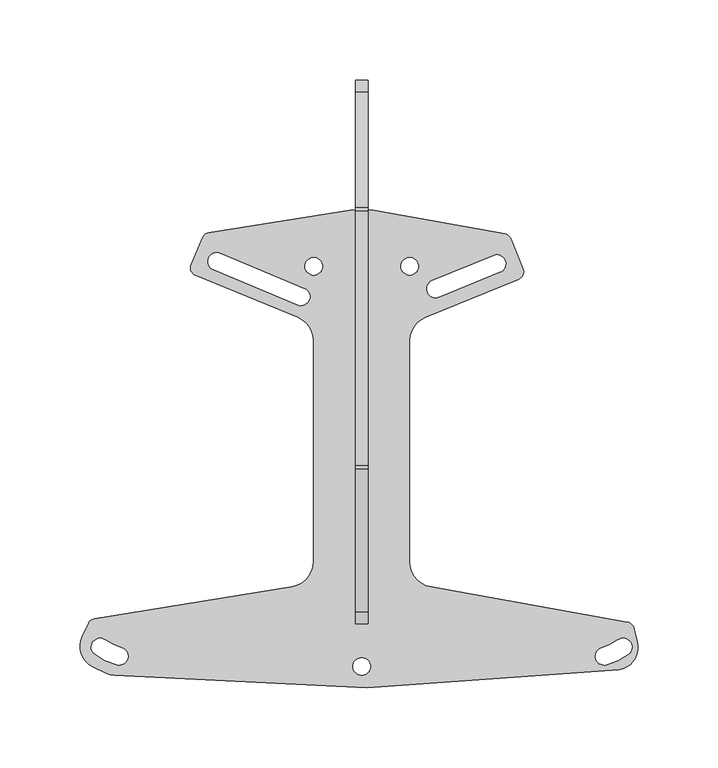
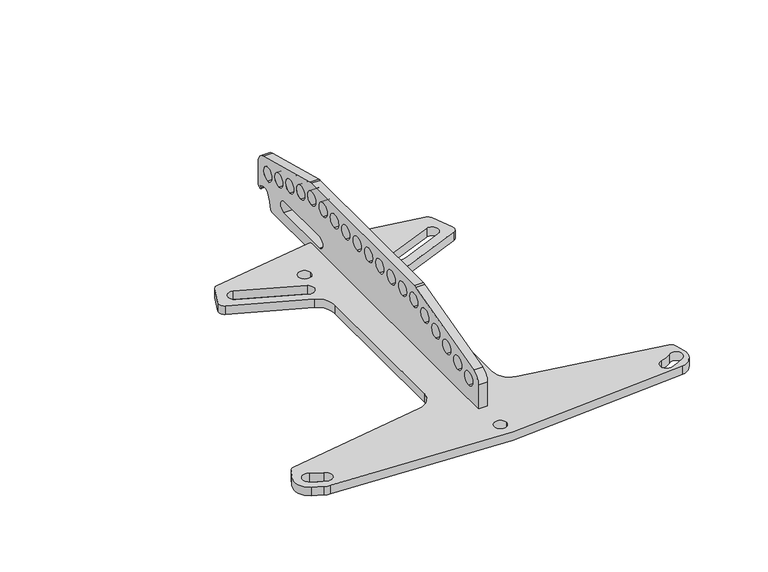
"""IFC4 building model written with IfcOpenShell, lengths in millimetres: proxy geometry, d&b A-Series Flying Adapter : AL Flying Adapter."""

import ifcopenshell
import ifcopenshell.guid

model = None  # the IFC model being written
_history = None  # IfcOwnerHistory: only IFC2X3 demands one
_inside = {}  # id of a spatial element -> (the spatial element, [elements in it])
_under = {}  # id of a project, library or spatial element -> (it, [spatial elements below it])
_declared = {}  # id of a project -> (the project, [libraries it declares])
_typed = {}  # id of a type object -> (the type object, [elements of that type])
_made_of = {}  # id of a material, layer set ... -> (it, [elements and type objects made of it])


def new_model(schema):
    """Start an empty IFC model of exactly this schema.

    Asked for "IFC4X3", IfcOpenShell would pick the latest addendum, in which some entities
    have other attributes; the version numbers below select the first issue.
    IFC2X3 requires an IfcOwnerHistory on every rooted entity: one is made here for all.
    """
    global model, _history
    if schema == "IFC4X3":
        model = ifcopenshell.file(schema_version=(4, 3, 0, 0))
    else:
        model = ifcopenshell.file(schema=schema)
    _inside.clear()
    _under.clear()
    _declared.clear()
    _typed.clear()
    _made_of.clear()
    _history = None
    if model.schema == "IFC2X3":
        org = make("IfcOrganization", Name="unknown")
        user = make(
            "IfcPersonAndOrganization",
            ThePerson=make("IfcPerson", FamilyName="unknown"),
            TheOrganization=org,
        )
        app = make(
            "IfcApplication",
            ApplicationDeveloper=org,
            Version="unknown",
            ApplicationFullName="unknown",
            ApplicationIdentifier="unknown",
        )
        _history = make(
            "IfcOwnerHistory",
            OwningUser=user,
            OwningApplication=app,
            ChangeAction="ADDED",
            CreationDate=0,
        )
    return model


def make(cls, **values):
    """One entity of the class cls with the attributes given. An attribute that is None is left unset."""
    return model.create_entity(
        cls, **{name: value for name, value in values.items() if value is not None}
    )


def rooted(cls, **values):
    """An entity with a GlobalId (a new one), such as an element, a storey or a relation."""
    return make(cls, GlobalId=ifcopenshell.guid.new(), OwnerHistory=_history, **values)


def si_unit(unit_type, name, prefix=None):
    """IfcSIUnit, for example si_unit("LENGTHUNIT", "METRE", prefix="MILLI")."""
    return make("IfcSIUnit", UnitType=unit_type, Prefix=prefix, Name=name)


def assignment(units):
    """IfcUnitAssignment: the units of a project."""
    return None if units is None else make("IfcUnitAssignment", Units=units)


def point(xyz):
    """IfcCartesianPoint."""
    return None if xyz is None else make("IfcCartesianPoint", Coordinates=xyz)


def direction(xyz):
    """IfcDirection."""
    return None if xyz is None else make("IfcDirection", DirectionRatios=xyz)


def frame(location, z_axis=None, x_axis=None):
    """IfcAxis2Placement3D, a coordinate frame: its origin and axes. An axis left out is left unset."""
    return make(
        "IfcAxis2Placement3D",
        Location=point(location),
        Axis=direction(z_axis),
        RefDirection=direction(x_axis),
    )


def frame_2d(location, x_axis=None):
    """IfcAxis2Placement2D, a coordinate frame in the plane: its origin and x axis."""
    return make(
        "IfcAxis2Placement2D", Location=point(location), RefDirection=direction(x_axis)
    )


def origin():
    """The frame at (0, 0, 0) with its axes left unset."""
    return frame((0.0, 0.0, 0.0))


def origin_with_axes():
    """The frame at (0, 0, 0) with the z axis (0, 0, 1) and the x axis (1, 0, 0) written out."""
    return frame((0.0, 0.0, 0.0), z_axis=(0.0, 0.0, 1.0), x_axis=(1.0, 0.0, 0.0))


def place(relative_to, where):
    """IfcLocalPlacement: puts the frame where relative to a parent placement (None: the world)."""
    return make(
        "IfcLocalPlacement", PlacementRelTo=relative_to, RelativePlacement=where
    )


def context(
    kind, dimensions, precision=None, world=None, true_north=None, identifier=None
):
    """IfcGeometricRepresentationContext, for example the 3D "Model" context."""
    return make(
        "IfcGeometricRepresentationContext",
        ContextIdentifier=identifier,
        ContextType=kind,
        CoordinateSpaceDimension=dimensions,
        Precision=precision,
        WorldCoordinateSystem=world,
        TrueNorth=true_north,
    )


def project(units=None, contexts=None):
    """IfcProject with its units and contexts."""
    return rooted(
        "IfcProject",
        Name="project",
        RepresentationContexts=contexts,
        UnitsInContext=assignment(units),
    )


def spatial(cls, under=None, at=None, **own):
    """A site, building, storey or space (cls), placed at a placement, below another one or the project."""
    s = rooted(cls, ObjectPlacement=at, **own)
    if under is not None:
        _under.setdefault(under.id(), (under, []))[1].append(s)
    return s


def polyline(points):
    """IfcPolyline through the points."""
    return make("IfcPolyline", Points=[point(p) for p in points])


def circle_curve(where, radius):
    """IfcCircle in the frame where."""
    return make("IfcCircle", Position=where, Radius=radius)


def trimmed(basis, trim1, trim2, sense, master):
    """IfcTrimmedCurve: the piece of a basis curve between two trims."""
    return make(
        "IfcTrimmedCurve",
        BasisCurve=basis,
        Trim1=trim1,
        Trim2=trim2,
        SenseAgreement=sense,
        MasterRepresentation=master,
    )


def segment(curve, same_sense, transition):
    """IfcCompositeCurveSegment."""
    return make(
        "IfcCompositeCurveSegment",
        Transition=transition,
        SameSense=same_sense,
        ParentCurve=curve,
    )


def composite_curve(segments, self_intersect=None):
    """IfcCompositeCurve: segments joined end to end."""
    return make("IfcCompositeCurve", Segments=segments, SelfIntersect=self_intersect)


def outline(outer, holes=None, kind="AREA"):
    """IfcArbitraryClosedProfileDef: a profile drawn as a closed curve; with holes, ...WithVoids."""
    if holes is None:
        return make("IfcArbitraryClosedProfileDef", ProfileType=kind, OuterCurve=outer)
    return make(
        "IfcArbitraryProfileDefWithVoids",
        ProfileType=kind,
        OuterCurve=outer,
        InnerCurves=holes,
    )


def extrude(swept, where, along, depth):
    """IfcExtrudedAreaSolid: the profile swept, set in the frame where, extruded along a direction by depth."""
    return make(
        "IfcExtrudedAreaSolid",
        SweptArea=swept,
        Position=where,
        ExtrudedDirection=direction(along),
        Depth=depth,
    )


def shape(context_of_items, identifier, shape_type, items):
    """IfcShapeRepresentation: the items that make up one representation, for example the "Body"."""
    return make(
        "IfcShapeRepresentation",
        ContextOfItems=context_of_items,
        RepresentationIdentifier=identifier,
        RepresentationType=shape_type,
        Items=items,
    )


def source(mapping_origin, context_of_items, identifier, shape_type, items):
    """IfcRepresentationMap: a shape defined once, which mapped items show again and again."""
    return make(
        "IfcRepresentationMap",
        MappingOrigin=mapping_origin,
        MappedRepresentation=shape(context_of_items, identifier, shape_type, items),
    )


def transform(
    local_origin,
    x_axis=None,
    y_axis=None,
    z_axis=None,
    scale=None,
    scale2=None,
    scale3=None,
    uniform=True,
):
    """IfcCartesianTransformationOperator3D, or its non-uniform kind. x_axis, y_axis, z_axis: its Axis1, 2, 3."""
    if uniform:
        return make(
            "IfcCartesianTransformationOperator3D",
            Axis1=direction(x_axis),
            Axis2=direction(y_axis),
            LocalOrigin=point(local_origin),
            Scale=scale,
            Axis3=direction(z_axis),
        )
    return make(
        "IfcCartesianTransformationOperator3DnonUniform",
        Axis1=direction(x_axis),
        Axis2=direction(y_axis),
        LocalOrigin=point(local_origin),
        Scale=scale,
        Axis3=direction(z_axis),
        Scale2=scale2,
        Scale3=scale3,
    )


def mapped(mapping_source, mapping_target):
    """IfcMappedItem: shows the shape of a source again, moved by a transform."""
    return make(
        "IfcMappedItem", MappingSource=mapping_source, MappingTarget=mapping_target
    )


def made_of(thing, what):
    """Note that an element or type object is made of a material, layer set ...; save() writes the relation."""
    if what is not None:
        _made_of.setdefault(what.id(), (what, []))[1].append(thing)
    return thing


def element(
    cls,
    number,
    at=None,
    inside=None,
    cuts=None,
    type_object=None,
    material=None,
    context=None,
    identifier="Body",
    shape_type=None,
    held_by="IfcProductDefinitionShape",
    body=None,
    shapes=None,
    **own,
):
    """One element of the class cls, such as IfcWall. Its Tag is "e" and its number.

    at: its placement. inside: the storey or other place that contains it. cuts: it is an
    opening in that element (IfcRelVoidsElement). A single representation is given by context,
    identifier, shape_type and body (its items); several are given by shapes. held_by: the class
    of the entity that holds the representations. save() writes the other relations.
    """
    e = rooted(cls, Tag="e%d" % number, ObjectPlacement=at, **own)
    if body is not None:
        shapes = [shape(context, identifier, shape_type, body)]
    if shapes is not None:
        e.Representation = make(held_by, Representations=shapes)
    if inside is not None:
        _inside.setdefault(inside.id(), (inside, []))[1].append(e)
    if cuts is not None:
        rooted(
            "IfcRelVoidsElement", RelatingBuildingElement=cuts, RelatedOpeningElement=e
        )
    if type_object is not None:
        _typed.setdefault(type_object.id(), (type_object, []))[1].append(e)
    return made_of(e, material)


def aggregate(whole, parts):
    """IfcRelAggregates: a whole, such as a stair, and the parts it consists of."""
    return rooted("IfcRelAggregates", RelatingObject=whole, RelatedObjects=parts)


def save(model, path):
    """Write the relations noted so far, then the file.

    IfcRelAggregates (storeys below a building ...), IfcRelContainedInSpatialStructure (elements
    in a storey), IfcRelDefinesByType, IfcRelAssociatesMaterial and IfcRelDeclares: one each for
    every whole, place, type object, material and project.
    """
    for whole, parts in _under.values():
        aggregate(whole, parts)
    for where, things in _inside.values():
        rooted(
            "IfcRelContainedInSpatialStructure",
            RelatedElements=things,
            RelatingStructure=where,
        )
    for kind, things in _typed.values():
        rooted("IfcRelDefinesByType", RelatedObjects=things, RelatingType=kind)
    for what, things in _made_of.values():
        rooted("IfcRelAssociatesMaterial", RelatedObjects=things, RelatingMaterial=what)
    for by, libraries in _declared.values():
        rooted("IfcRelDeclares", RelatingContext=by, RelatedDefinitions=libraries)
    model.write(path)


def communication_devices_1f0d5030(model_context):
    return source(origin(), model_context, "Body", "SweptSolid", [
        extrude(outline(composite_curve([segment(polyline([(369.541623, 34.8560634), (369.541623, 14.8208781)]), True, "CONTINUOUS"), segment(trimmed(circle_curve(frame_2d((366.541623, 14.8208781)), 3.0), [point((369.541623, 14.8208781))], [point((368.8452025, 12.8990244))], False, "CARTESIAN"), True, "CONTINUOUS"), segment(trimmed(circle_curve(frame_2d((366.0080913, 15.0053592)), 3.5335317), [point((368.8452025, 12.8990244))], [point((366.3345579, 11.4869411))], False, "CARTESIAN"), True, "CONTINUOUS"), segment(trimmed(circle_curve(frame_2d((366.2591994, 12.2991002)), 0.8156478), [point((366.3345579, 11.4869411))], [point((365.5413897, 11.9117625))], False, "CARTESIAN"), True, "CONTINUOUS"), segment(trimmed(circle_curve(frame_2d((366.2179763, 12.2768558)), 0.768806), [point((365.5413897, 11.9117625))], [point((365.7088131, 12.8528901))], False, "CARTESIAN"), True, "CONTINUOUS"), segment(trimmed(circle_curve(frame_2d((365.2958551, 13.7884071)), 1.0226076), [point((365.7088131, 12.8528901))], [point((366.260519, 14.1277447))], True, "CARTESIAN"), True, "CONTINUOUS"), segment(trimmed(circle_curve(frame_2d((363.8030044, 12.5063723)), 2.9441852), [point((366.260519, 14.1277447))], [point((365.437001, 14.9555112))], True, "CARTESIAN"), True, "CONTINUOUS"), segment(trimmed(circle_curve(frame_2d((360.359759, 7.3454155)), 9.1483301), [point((365.437001, 14.9555112))], [point((358.0712732, 16.2028856))], True, "CARTESIAN"), True, "CONTINUOUS"), segment(trimmed(circle_curve(frame_2d((359.4366078, 10.9184262)), 5.4579896), [point((358.0712732, 16.2028856))], [point((355.1413798, 14.2860168))], True, "CARTESIAN"), True, "CONTINUOUS"), segment(trimmed(circle_curve(frame_2d((371.1330992, 1.7480179)), 20.3208392), [point((355.1413798, 14.2860168))], [point((350.9585235, 4.18174))], True, "CARTESIAN"), True, "CONTINUOUS"), segment(trimmed(circle_curve(frame_2d((344.4421815, 4.9678267)), 6.5635848), [point((350.9585235, 4.18174))], [point((349.9143004, 1.3433873))], False, "CARTESIAN"), True, "CONTINUOUS"), segment(trimmed(circle_curve(frame_2d((347.4131738, 3.0)), 3.0), [point((349.9143004, 1.3433873))], [point((347.4131738, 0.0))], False, "CARTESIAN"), True, "CONTINUOUS"), segment(polyline([(347.4131738, 0.0), (288.1440001, 0.0), (288.1440001, 8.0694387), (29.9083054, 8.0694387), (29.9083054, 30.3267301)]), True, "CONTINUOUS"), segment(trimmed(circle_curve(frame_2d((39.9083054, 30.3267301)), 10.0), [point((29.9083054, 30.3267301))], [point((37.3201149, 39.9859884))], False, "CARTESIAN"), True, "CONTINUOUS"), segment(polyline([(37.3201149, 39.9859884), (126.3120147, 63.8312961)]), True, "CONTINUOUS"), segment(trimmed(circle_curve(frame_2d((128.9002052, 54.1720378)), 10.0), [point((126.3120147, 63.8312961))], [point((128.9002052, 64.1720378))], False, "CARTESIAN"), True, "CONTINUOUS"), segment(polyline([(128.9002052, 64.1720378), (287.4534252, 64.1720378)]), True, "CONTINUOUS"), segment(trimmed(circle_curve(frame_2d((287.4534252, 54.1720378)), 10.0), [point((287.4534252, 64.1720378))], [point((290.0416156, 63.8312961))], False, "CARTESIAN"), True, "CONTINUOUS"), segment(polyline([(290.0416156, 63.8312961), (362.1298135, 44.5153217)]), True, "CONTINUOUS"), segment(trimmed(circle_curve(frame_2d((359.541623, 34.8560634)), 10.0), [point((362.1298135, 44.5153217))], [point((369.541623, 34.8560634))], False, "CARTESIAN"), True, "CONTINUOUS")], self_intersect=False), holes=[composite_curve([segment(trimmed(circle_curve(frame_2d((274.9273055, 16.0)), 5.0), [point((274.9273055, 21.0))], [point((274.9273055, 11.0))], True, "CARTESIAN"), True, "CONTINUOUS"), segment(polyline([(274.9273055, 11.0), (329.9273055, 11.0)]), True, "CONTINUOUS"), segment(trimmed(circle_curve(frame_2d((329.9273055, 16.0)), 5.0), [point((329.9273055, 11.0))], [point((329.9273055, 21.0))], True, "CARTESIAN"), True, "CONTINUOUS"), segment(polyline([(329.9273055, 21.0), (274.9273055, 21.0)]), True, "CONTINUOUS")], self_intersect=False), composite_curve([segment(trimmed(circle_curve(frame_2d((354.541623, 32.0547047)), 6.25), [point((354.541623, 25.8047047))], [point((354.541623, 38.3047047))], True, "CARTESIAN"), True, "CONTINUOUS"), segment(trimmed(circle_curve(frame_2d((354.541623, 32.0547047)), 6.25), [point((354.541623, 38.3047047))], [point((354.541623, 25.8047047))], True, "CARTESIAN"), True, "CONTINUOUS")], self_intersect=False), composite_curve([segment(trimmed(circle_curve(frame_2d((337.6379211, 36.5840379)), 6.25), [point((337.6379211, 42.8340379))], [point((337.6379211, 30.3340379))], True, "CARTESIAN"), True, "CONTINUOUS"), segment(trimmed(circle_curve(frame_2d((337.6379211, 36.5840379)), 6.25), [point((337.6379211, 30.3340379))], [point((337.6379211, 42.8340379))], True, "CARTESIAN"), True, "CONTINUOUS")], self_intersect=False), composite_curve([segment(trimmed(circle_curve(frame_2d((320.7342191, 41.1133712)), 6.25), [point((320.7342191, 47.3633712))], [point((320.7342191, 34.8633712))], True, "CARTESIAN"), True, "CONTINUOUS"), segment(trimmed(circle_curve(frame_2d((320.7342191, 41.1133712)), 6.25), [point((320.7342191, 34.8633712))], [point((320.7342191, 47.3633712))], True, "CARTESIAN"), True, "CONTINUOUS")], self_intersect=False), composite_curve([segment(trimmed(circle_curve(frame_2d((303.8305171, 45.6427045)), 6.25), [point((303.8305171, 51.8927045))], [point((303.8305171, 39.3927045))], True, "CARTESIAN"), True, "CONTINUOUS"), segment(trimmed(circle_curve(frame_2d((303.8305171, 45.6427045)), 6.25), [point((303.8305171, 39.3927045))], [point((303.8305171, 51.8927045))], True, "CARTESIAN"), True, "CONTINUOUS")], self_intersect=False), composite_curve([segment(trimmed(circle_curve(frame_2d((286.9268152, 50.1720378)), 6.25), [point((286.9268152, 56.4220378))], [point((286.9268152, 43.9220378))], True, "CARTESIAN"), True, "CONTINUOUS"), segment(trimmed(circle_curve(frame_2d((286.9268152, 50.1720378)), 6.25), [point((286.9268152, 43.9220378))], [point((286.9268152, 56.4220378))], True, "CARTESIAN"), True, "CONTINUOUS")], self_intersect=False), composite_curve([segment(trimmed(circle_curve(frame_2d((269.4268152, 50.1720378)), 6.25), [point((269.4268152, 56.4220378))], [point((269.4268152, 43.9220378))], True, "CARTESIAN"), True, "CONTINUOUS"), segment(trimmed(circle_curve(frame_2d((269.4268152, 50.1720378)), 6.25), [point((269.4268152, 43.9220378))], [point((269.4268152, 56.4220378))], True, "CARTESIAN"), True, "CONTINUOUS")], self_intersect=False), composite_curve([segment(trimmed(circle_curve(frame_2d((251.9268152, 50.1720378)), 6.25), [point((251.9268152, 56.4220378))], [point((251.9268152, 43.9220378))], True, "CARTESIAN"), True, "CONTINUOUS"), segment(trimmed(circle_curve(frame_2d((251.9268152, 50.1720378)), 6.25), [point((251.9268152, 43.9220378))], [point((251.9268152, 56.4220378))], True, "CARTESIAN"), True, "CONTINUOUS")], self_intersect=False), composite_curve([segment(trimmed(circle_curve(frame_2d((234.4268152, 50.1720378)), 6.25), [point((234.4268152, 56.4220378))], [point((234.4268152, 43.9220378))], True, "CARTESIAN"), True, "CONTINUOUS"), segment(trimmed(circle_curve(frame_2d((234.4268152, 50.1720378)), 6.25), [point((234.4268152, 43.9220378))], [point((234.4268152, 56.4220378))], True, "CARTESIAN"), True, "CONTINUOUS")], self_intersect=False), composite_curve([segment(trimmed(circle_curve(frame_2d((216.9268152, 50.1720378)), 6.25), [point((216.9268152, 56.4220378))], [point((216.9268152, 43.9220378))], True, "CARTESIAN"), True, "CONTINUOUS"), segment(trimmed(circle_curve(frame_2d((216.9268152, 50.1720378)), 6.25), [point((216.9268152, 43.9220378))], [point((216.9268152, 56.4220378))], True, "CARTESIAN"), True, "CONTINUOUS")], self_intersect=False), composite_curve([segment(trimmed(circle_curve(frame_2d((199.4268152, 50.1720378)), 6.25), [point((199.4268152, 56.4220378))], [point((199.4268152, 43.9220378))], True, "CARTESIAN"), True, "CONTINUOUS"), segment(trimmed(circle_curve(frame_2d((199.4268152, 50.1720378)), 6.25), [point((199.4268152, 43.9220378))], [point((199.4268152, 56.4220378))], True, "CARTESIAN"), True, "CONTINUOUS")], self_intersect=False), composite_curve([segment(trimmed(circle_curve(frame_2d((181.9268152, 50.1720378)), 6.25), [point((181.9268152, 56.4220378))], [point((181.9268152, 43.9220378))], True, "CARTESIAN"), True, "CONTINUOUS"), segment(trimmed(circle_curve(frame_2d((181.9268152, 50.1720378)), 6.25), [point((181.9268152, 43.9220378))], [point((181.9268152, 56.4220378))], True, "CARTESIAN"), True, "CONTINUOUS")], self_intersect=False), composite_curve([segment(trimmed(circle_curve(frame_2d((164.4268152, 50.1720378)), 6.25), [point((164.4268152, 56.4220378))], [point((164.4268152, 43.9220378))], True, "CARTESIAN"), True, "CONTINUOUS"), segment(trimmed(circle_curve(frame_2d((164.4268152, 50.1720378)), 6.25), [point((164.4268152, 43.9220378))], [point((164.4268152, 56.4220378))], True, "CARTESIAN"), True, "CONTINUOUS")], self_intersect=False), composite_curve([segment(trimmed(circle_curve(frame_2d((146.9268152, 50.1720378)), 6.25), [point((146.9268152, 56.4220378))], [point((146.9268152, 43.9220378))], True, "CARTESIAN"), True, "CONTINUOUS"), segment(trimmed(circle_curve(frame_2d((146.9268152, 50.1720378)), 6.25), [point((146.9268152, 43.9220378))], [point((146.9268152, 56.4220378))], True, "CARTESIAN"), True, "CONTINUOUS")], self_intersect=False), composite_curve([segment(trimmed(circle_curve(frame_2d((129.4268152, 50.1720378)), 6.25), [point((129.4268152, 56.4220378))], [point((129.4268152, 43.9220378))], True, "CARTESIAN"), True, "CONTINUOUS"), segment(trimmed(circle_curve(frame_2d((129.4268152, 50.1720378)), 6.25), [point((129.4268152, 43.9220378))], [point((129.4268152, 56.4220378))], True, "CARTESIAN"), True, "CONTINUOUS")], self_intersect=False), composite_curve([segment(trimmed(circle_curve(frame_2d((112.5231132, 45.6427045)), 6.25), [point((112.5231132, 51.8927045))], [point((112.5231132, 39.3927045))], True, "CARTESIAN"), True, "CONTINUOUS"), segment(trimmed(circle_curve(frame_2d((112.5231132, 45.6427045)), 6.25), [point((112.5231132, 39.3927045))], [point((112.5231132, 51.8927045))], True, "CARTESIAN"), True, "CONTINUOUS")], self_intersect=False), composite_curve([segment(trimmed(circle_curve(frame_2d((95.6194113, 41.1133712)), 6.25), [point((95.6194113, 47.3633712))], [point((95.6194113, 34.8633712))], True, "CARTESIAN"), True, "CONTINUOUS"), segment(trimmed(circle_curve(frame_2d((95.6194113, 41.1133712)), 6.25), [point((95.6194113, 34.8633712))], [point((95.6194113, 47.3633712))], True, "CARTESIAN"), True, "CONTINUOUS")], self_intersect=False), composite_curve([segment(trimmed(circle_curve(frame_2d((78.7157093, 36.5840379)), 6.25), [point((78.7157093, 42.8340379))], [point((78.7157093, 30.3340379))], True, "CARTESIAN"), True, "CONTINUOUS"), segment(trimmed(circle_curve(frame_2d((78.7157093, 36.5840379)), 6.25), [point((78.7157093, 30.3340379))], [point((78.7157093, 42.8340379))], True, "CARTESIAN"), True, "CONTINUOUS")], self_intersect=False), composite_curve([segment(trimmed(circle_curve(frame_2d((61.8120073, 32.0547047)), 6.25), [point((61.8120073, 38.3047047))], [point((61.8120073, 25.8047047))], True, "CARTESIAN"), True, "CONTINUOUS"), segment(trimmed(circle_curve(frame_2d((61.8120073, 32.0547047)), 6.25), [point((61.8120073, 25.8047047))], [point((61.8120073, 38.3047047))], True, "CARTESIAN"), True, "CONTINUOUS")], self_intersect=False), composite_curve([segment(trimmed(circle_curve(frame_2d((44.9083054, 27.5253714)), 6.25), [point((44.9083054, 33.7753714))], [point((44.9083054, 21.2753714))], True, "CARTESIAN"), True, "CONTINUOUS"), segment(trimmed(circle_curve(frame_2d((44.9083054, 27.5253714)), 6.25), [point((44.9083054, 21.2753714))], [point((44.9083054, 33.7753714))], True, "CARTESIAN"), True, "CONTINUOUS")], self_intersect=False)]), frame((-4.0, 0.0, 0.0), z_axis=(1.0, 0.0, 0.0), x_axis=(0.0, 1.0, 0.0)), (0.0, 0.0, 1.0), 8.0),
        extrude(outline(composite_curve([segment(polyline([(-167.0641078, 32.906276), (-43.4397471, 52.946355)]), True, "CONTINUOUS"), segment(trimmed(circle_curve(frame_2d((-46.0, 68.7401862)), 16.0), [point((-43.4397471, 52.946355))], [point((-30.0, 68.7401862))], True, "CARTESIAN"), True, "CONTINUOUS"), segment(polyline([(-30.0, 68.7401862), (-30.0, 206.4770095)]), True, "CONTINUOUS"), segment(trimmed(circle_curve(frame_2d((-46.0, 206.4770095)), 16.0), [point((-30.0, 206.4770095))], [point((-39.9351599, 221.2830122))], True, "CARTESIAN"), True, "CONTINUOUS"), segment(polyline([(-39.9351599, 221.2830122), (-103.8913636, 247.4807751)]), True, "CONTINUOUS"), segment(trimmed(circle_curve(frame_2d((-101.9961011, 252.1076509)), 5.0), [point((-103.8913636, 247.4807751))], [point((-106.6094501, 254.035606))], False, "CARTESIAN"), True, "CONTINUOUS"), segment(polyline([(-106.6094501, 254.035606), (-99.4639548, 271.1338591)]), True, "CONTINUOUS"), segment(trimmed(circle_curve(frame_2d((-94.8506058, 269.205904)), 5.0), [point((-99.4639548, 271.1338591))], [point((-95.6306908, 274.1446759))], False, "CARTESIAN"), True, "CONTINUOUS"), segment(polyline([(-95.6306908, 274.1446759), (-7.3876396, 288.0827719)]), True, "CONTINUOUS"), segment(trimmed(circle_curve(frame_2d((-6.6075547, 283.1440001)), 5.0), [point((-7.3876396, 288.0827719))], [point((-6.6075547, 288.1440001))], False, "CARTESIAN"), True, "CONTINUOUS"), segment(polyline([(-6.6075547, 288.1440001), (-4.25, 288.1440001), (-4.25, 262.8940001), (4.25, 262.8940001), (4.25, 288.1440001), (6.5575439, 288.1440001)]), True, "CONTINUOUS"), segment(trimmed(circle_curve(frame_2d((6.5575439, 283.1440001)), 5.0), [point((6.5575439, 288.1440001))], [point((7.4355805, 288.0663015))], False, "CARTESIAN"), True, "CONTINUOUS"), segment(polyline([(7.4355805, 288.0663015), (89.4870912, 273.4300128)]), True, "CONTINUOUS"), segment(trimmed(circle_curve(frame_2d((88.6090547, 268.5077113)), 5.0), [point((89.4870912, 273.4300128))], [point((93.2359305, 270.4029738))], False, "CARTESIAN"), True, "CONTINUOUS"), segment(polyline([(93.2359305, 270.4029738), (100.9119719, 251.6635695)]), True, "CONTINUOUS"), segment(trimmed(circle_curve(frame_2d((96.2850961, 249.768307)), 5.0), [point((100.9119719, 251.6635695))], [point((98.1803586, 245.1414312))], False, "CARTESIAN"), True, "CONTINUOUS"), segment(polyline([(98.1803586, 245.1414312), (39.9351599, 221.2830122)]), True, "CONTINUOUS"), segment(trimmed(circle_curve(frame_2d((46.0, 206.4770095)), 16.0), [point((39.9351599, 221.2830122))], [point((30.0, 206.4770095))], True, "CARTESIAN"), True, "CONTINUOUS"), segment(polyline([(30.0, 206.4770095), (30.0, 68.5234916)]), True, "CONTINUOUS"), segment(trimmed(circle_curve(frame_2d((46.0, 68.5234916)), 16.0), [point((30.0, 68.5234916))], [point((43.190283, 52.7721269))], True, "CARTESIAN"), True, "CONTINUOUS"), segment(polyline([(43.190283, 52.7721269), (166.0905199, 30.8492721)]), True, "CONTINUOUS"), segment(trimmed(circle_curve(frame_2d((165.2124833, 25.9269706)), 5.0), [point((166.0905199, 30.8492721))], [point((170.0421125, 27.2210658))], False, "CARTESIAN"), True, "CONTINUOUS"), segment(polyline([(170.0421125, 27.2210658), (172.3492156, 18.6108396)]), True, "CONTINUOUS"), segment(trimmed(circle_curve(frame_2d((158.8262541, 14.987373)), 14.0), [point((172.3492156, 18.6108396))], [point((160.6918659, 1.1122336))], False, "CARTESIAN"), True, "CONTINUOUS"), segment(trimmed(circle_curve(frame_2d((-11.7508472, 1283.6226986)), 1294.0516149), [point((160.6918659, 1.1122336))], [point((-154.5659291, -2.5240405))], False, "CARTESIAN"), True, "CONTINUOUS"), segment(trimmed(circle_curve(frame_2d((-152.8001253, 13.3782215)), 16.0), [point((-154.5659291, -2.5240405))], [point((-159.684068, -1.0651622))], False, "CARTESIAN"), True, "CONTINUOUS"), segment(polyline([(-159.684068, -1.0651622), (-168.1987888, 2.993087)]), True, "CONTINUOUS"), segment(trimmed(circle_curve(frame_2d((-162.175339, 15.6310477)), 14.0), [point((-168.1987888, 2.993087))], [point((-174.8132997, 21.6544976))], False, "CARTESIAN"), True, "CONTINUOUS"), segment(polyline([(-174.8132997, 21.6544976), (-170.7775862, 30.1219358)]), True, "CONTINUOUS"), segment(trimmed(circle_curve(frame_2d((-166.2640287, 27.9707037)), 5.0), [point((-170.7775862, 30.1219358))], [point((-167.0641078, 32.906276))], False, "CARTESIAN"), True, "CONTINUOUS")], self_intersect=False), holes=[composite_curve([segment(trimmed(circle_curve(frame_2d((-163.5082969, 15.1585827)), 5.6), [point((-160.2438978, 19.7087144))], [point((-166.7726959, 10.6084509))], True, "CARTESIAN"), True, "CONTINUOUS"), segment(trimmed(circle_curve(frame_2d((-141.8547099, 45.3407608)), 42.7462206), [point((-166.7726959, 10.6084509))], [point((-153.1412107, 4.1114718))], True, "CARTESIAN"), True, "CONTINUOUS"), segment(trimmed(circle_curve(frame_2d((-151.6626143, 9.512745)), 5.6), [point((-153.1412107, 4.1114718))], [point((-151.6626143, 3.912745))], True, "CARTESIAN"), True, "CONTINUOUS"), segment(trimmed(circle_curve(frame_2d((-151.6626143, 9.512745)), 5.6), [point((-151.6626143, 3.912745))], [point((-150.184018, 14.9140183))], True, "CARTESIAN"), True, "CONTINUOUS"), segment(trimmed(circle_curve(frame_2d((-141.8547099, 45.3407608)), 31.5462206), [point((-150.184018, 14.9140183))], [point((-160.2438978, 19.7087144))], False, "CARTESIAN"), True, "CONTINUOUS")], self_intersect=False), composite_curve([segment(trimmed(circle_curve(frame_2d((0.0, 3.125)), 5.5), [point((5.5, 3.125))], [point((-5.5, 3.125))], True, "CARTESIAN"), True, "CONTINUOUS"), segment(trimmed(circle_curve(frame_2d((0.0, 3.125)), 5.5), [point((-5.5, 3.125))], [point((5.5, 3.125))], True, "CARTESIAN"), True, "CONTINUOUS")], self_intersect=False), composite_curve([segment(trimmed(circle_curve(frame_2d((-30.0, 253.125)), 5.5), [point((-24.5, 253.125))], [point((-35.5, 253.125))], True, "CARTESIAN"), True, "CONTINUOUS"), segment(trimmed(circle_curve(frame_2d((-30.0, 253.125)), 5.5), [point((-35.5, 253.125))], [point((-24.5, 253.125))], True, "CARTESIAN"), True, "CONTINUOUS")], self_intersect=False), composite_curve([segment(trimmed(circle_curve(frame_2d((30.0, 253.125)), 5.5), [point((35.5, 253.125))], [point((24.5, 253.125))], True, "CARTESIAN"), True, "CONTINUOUS"), segment(trimmed(circle_curve(frame_2d((30.0, 253.125)), 5.5), [point((24.5, 253.125))], [point((35.5, 253.125))], True, "CARTESIAN"), True, "CONTINUOUS")], self_intersect=False), composite_curve([segment(trimmed(circle_curve(frame_2d((-90.5520199, 256.1510756)), 5.6), [point((-88.5538494, 261.3824535))], [point((-92.5501903, 250.9196977))], True, "CARTESIAN"), True, "CONTINUOUS"), segment(trimmed(circle_curve(frame_2d((-418.6990531, -602.9653846)), 914.0529604), [point((-92.5501903, 250.9196977))], [point((-40.2851751, 229.0777341))], False, "CARTESIAN"), True, "CONTINUOUS"), segment(trimmed(circle_curve(frame_2d((-37.9667999, 234.1752959)), 5.6), [point((-40.2851751, 229.0777341))], [point((-37.9667999, 228.5752959))], True, "CARTESIAN"), True, "CONTINUOUS"), segment(trimmed(circle_curve(frame_2d((-37.9667999, 234.1752959)), 5.6), [point((-37.9667999, 228.5752959))], [point((-35.6484247, 239.2728577))], True, "CARTESIAN"), True, "CONTINUOUS"), segment(trimmed(circle_curve(frame_2d((-418.6990531, -602.9653846)), 925.2529604), [point((-35.6484247, 239.2728577))], [point((-88.5538494, 261.3824535))], True, "CARTESIAN"), True, "CONTINUOUS")], self_intersect=False), composite_curve([segment(trimmed(circle_curve(frame_2d((46.3312891, 239.0319959)), 5.6), [point((43.7650227, 244.0093724))], [point((46.3312891, 233.4319959))], True, "CARTESIAN"), True, "CONTINUOUS"), segment(trimmed(circle_curve(frame_2d((46.3312891, 239.0319959)), 5.6), [point((46.3312891, 233.4319959))], [point((48.8975555, 234.0546194))], True, "CARTESIAN"), True, "CONTINUOUS"), segment(trimmed(circle_curve(frame_2d((154.8968014, 28.4648344)), 231.3071548), [point((48.8975555, 234.0546194))], [point((86.2082137, 249.3378245))], False, "CARTESIAN"), True, "CONTINUOUS"), segment(trimmed(circle_curve(frame_2d((84.545247, 254.685211)), 5.6), [point((86.2082137, 249.3378245))], [point((82.8822804, 260.0325974))], True, "CARTESIAN"), True, "CONTINUOUS"), segment(trimmed(circle_curve(frame_2d((154.8968014, 28.4648344)), 242.5071548), [point((82.8822804, 260.0325974))], [point((43.7650227, 244.0093724))], True, "CARTESIAN"), True, "CONTINUOUS")], self_intersect=False), composite_curve([segment(trimmed(circle_curve(frame_2d((141.8547099, 45.3407608)), 31.5462206), [point((160.2438978, 19.7087144))], [point((150.184018, 14.9140183))], False, "CARTESIAN"), True, "CONTINUOUS"), segment(trimmed(circle_curve(frame_2d((151.6626143, 9.512745)), 5.6), [point((150.184018, 14.9140183))], [point((151.6626143, 3.912745))], True, "CARTESIAN"), True, "CONTINUOUS"), segment(trimmed(circle_curve(frame_2d((151.6626143, 9.512745)), 5.6), [point((151.6626143, 3.912745))], [point((153.1412107, 4.1114718))], True, "CARTESIAN"), True, "CONTINUOUS"), segment(trimmed(circle_curve(frame_2d((141.8547099, 45.3407608)), 42.7462206), [point((153.1412107, 4.1114718))], [point((166.7726959, 10.6084509))], True, "CARTESIAN"), True, "CONTINUOUS"), segment(trimmed(circle_curve(frame_2d((163.5082969, 15.1585827)), 5.6), [point((166.7726959, 10.6084509))], [point((160.2438978, 19.7087144))], True, "CARTESIAN"), True, "CONTINUOUS")], self_intersect=False)]), origin_with_axes(), (0.0, 0.0, 1.0), 8.0),
    ])


if __name__ == "__main__":
    model = new_model("IFC4")
    model_context = context("Model", 3, world=origin())
    ifc_project = project(units=[si_unit("LENGTHUNIT", "METRE", prefix="MILLI")], contexts=[model_context])
    site = spatial("IfcSite", under=ifc_project)
    building = spatial("IfcBuilding", under=site)
    placement = place(None, origin())
    communication_devices_shape = communication_devices_1f0d5030(model_context)
    element("IfcBuildingElementProxy", 1, Name="d&b A-Series Flying Adapter : AL Flying Adapter", ObjectType="d&b A-Series Flying Adapter : AL Flying Adapter", at=placement, inside=building, context=model_context, shape_type="MappedRepresentation", body=[
        mapped(communication_devices_shape, transform((0.0, 0.0, 0.0), x_axis=(1.0, 0.0, 0.0), y_axis=(0.0, 1.0, 0.0), z_axis=(0.0, 0.0, 1.0))),
    ])
    save(model, "model.ifc")
